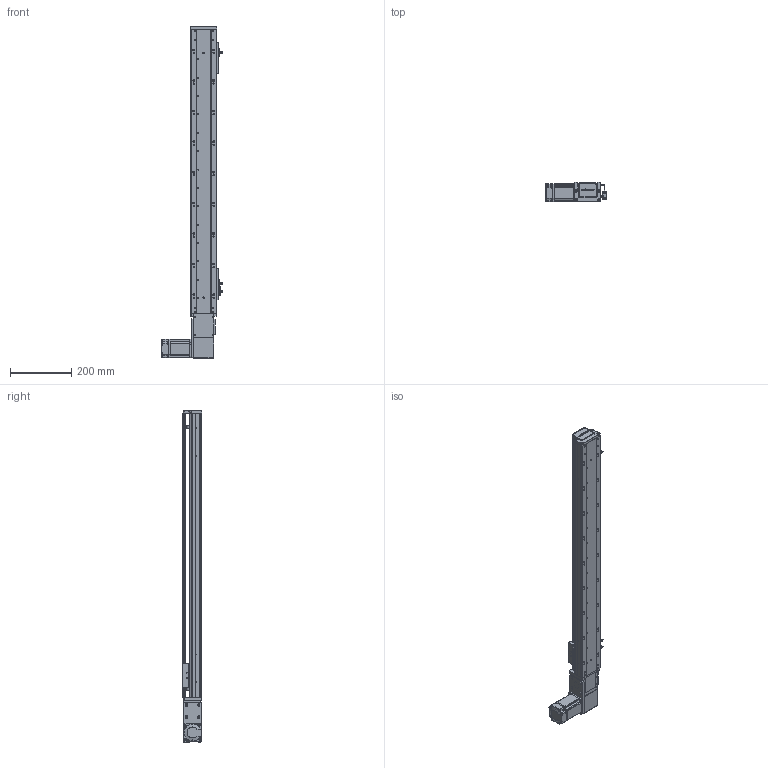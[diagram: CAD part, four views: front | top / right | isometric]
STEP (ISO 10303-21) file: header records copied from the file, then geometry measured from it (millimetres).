
FILE_DESCRIPTION (( 'STEP AP203' ), '1' );
FILE_NAME ('RY80-T-300-LK.SLDASM_750.step', '2021-03-01T01:58:33', ( '盈信电脑' ), ( '东莞市道滘镇水果街19号' ), 'SwSTEP 2.0', 'SolidWorks 2012', '' );
FILE_SCHEMA (( 'CONFIG_CONTROL_DESIGN' ));
Length unit declared in the file: millimetre
Products named in the file (19): RY80-T-300-LK.SLDASM_750; RY80-T肮祭謫俋欶; RY80-T萇儂假蚾啣; RY80-T-M4蹟翐; RY80-T翋肮祭謫裔啣; 侂狟200W萇儂; 1; 滅袉蝶18-10; RY80-T肮祭湍揤輸2; RY80-T-翋肮祭謫釱; RY80-T粣創揤踡輸; RY80-T肮祭湍揤輸1; 672嫖萇羲壽假蚾釱; RY80俋离覜茼え; 覜茼ん672; RY80-T綴裔啣; RY80-T-300-LK倰第奻裔啣_750; RY80-T肮祭謫臏賑輸; RY80-T-300-LK倰第菁釱_750
Assembly tree (24 placements, depth 3):
  RY80-T-300-LK.SLDASM_750
    RY80-T-300-LK倰第菁釱_750
    RY80-T肮祭謫臏賑輸
    RY80-T-300-LK倰第奻裔啣_750
    RY80-T綴裔啣
    672嫖萇羲壽假蚾釱  x2
    覜茼ん672  x3
    RY80俋离覜茼え
    RY80-T-翋肮祭謫釱
    RY80-T肮祭湍揤輸1
    RY80-T肮祭湍揤輸2
    RY80-T粣創揤踡輸
    RY80-T翋肮祭謫裔啣  x2
    滅袉蝶18-10  x2
    侂狟200W萇儂
      1
    RY80-T肮祭謫俋欶
    RY80-T萇儂假蚾啣
    RY80-T-M4蹟翐  x2
Bounding box: 198.7 x 65 x 1085 mm (x, y, z)
Volume: 1851316.2 mm3; surface area: 764440.1 mm2
Topology: 23 solids, 23 shells, 2522 faces, 6980 edges, 4535 vertices
Faces by surface type: plane 1333, cylinder 982, cone 151, bspline 56
Entity records: 80121 total; most frequent: CARTESIAN_POINT 20033, ORIENTED_EDGE 12404, DIRECTION 11544, EDGE_CURVE 6202, VERTEX_POINT 4076, AXIS2_PLACEMENT_3D 3895, VECTOR 3754, LINE 3754
